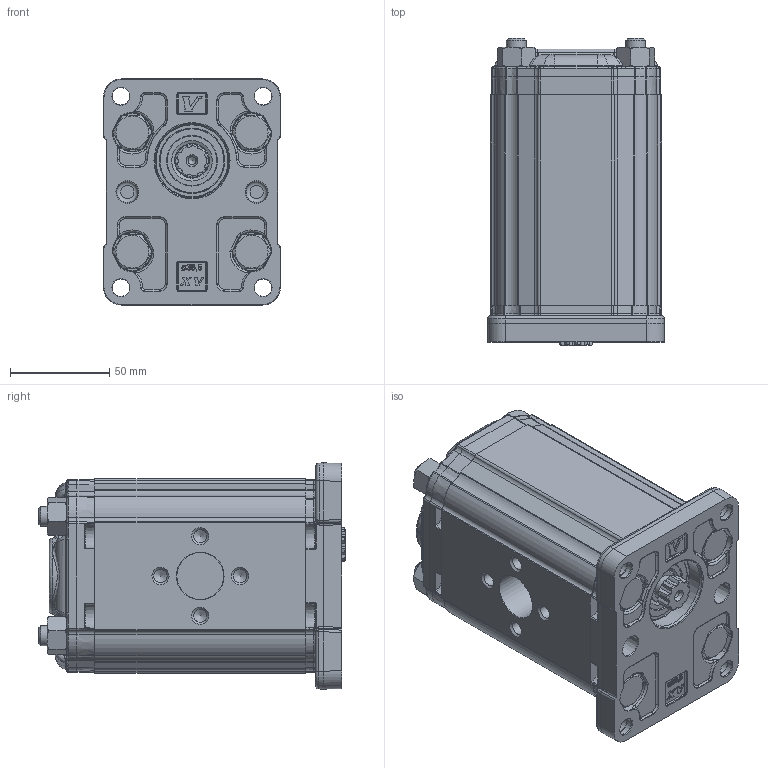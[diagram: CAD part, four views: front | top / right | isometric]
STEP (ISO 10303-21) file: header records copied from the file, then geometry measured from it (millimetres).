
FILE_DESCRIPTION(/* description */ ('Unknown'),/* implementation_level */ '2;1');
FILE_NAME(/* name */ 'X2F6302QQPA',/* time_stamp */ '2026-06-03T18:57:02+02:00',/* author */ ('Unknown'),/* organization */ ('Unknown'),/* preprocessor_version */ 'ST-DEVELOPER v16.7',/* originating_system */ 'Solid Edge',/* authorisation */ 'Unknown');
FILE_SCHEMA (('AUTOMOTIVE_DESIGN {1 0 10303 214 3 1 1}'));
Products named in the file (5): X2F6302QQPA; X2F02; 2Q; X2QPH106; XF201-A
Assembly tree (4 placements, depth 2):
  X2F6302QQPA
    X2F02
    2Q
    X2QPH106
    XF201-A
Bounding box: 89 x 154.3 x 113.7 mm (x, y, z)
Volume: 1043513.5 mm3; surface area: 135837.6 mm2
Topology: 4 solids, 5 shells, 2406 faces, 5915 edges, 3598 vertices
Faces by surface type: cylinder 645, bspline 624, plane 557, torus 291, cone 258, sphere 31
Full cylindrical faces by diameter (mm): 4 x1, 6.647 x8, 8.796 x4, 8.798 x4, 10 x12, 10.5 x12, 11.5 x4, 12.5 x1, 16 x4, 17.42 x1, 20 x1, 23 x1, 23.5 x1, 25 x1, 32.5 x1, 36.5 x1
Entity records: 109567 total; most frequent: CARTESIAN_POINT 42762, ORIENTED_EDGE 11120, DIRECTION 8916, EDGE_CURVE 5560, AXIS2_PLACEMENT_3D 3550, VERTEX_POINT 3495, FACE_BOUND 2769, EDGE_LOOP 2759
